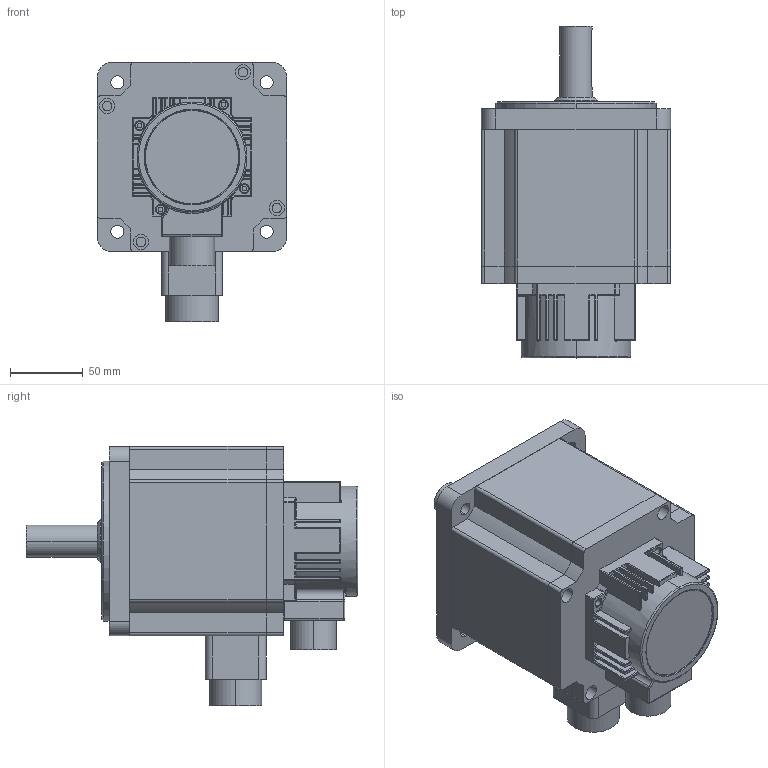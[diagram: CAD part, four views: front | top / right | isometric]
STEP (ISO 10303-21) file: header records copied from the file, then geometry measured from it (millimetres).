
FILE_DESCRIPTION (( 'STEP AP214' ), '1' );
FILE_NAME ('RSN-M13J5025A.STEP', '2022-01-14T07:45:03', ( '' ), ( '' ), 'SwSTEP 2.0', 'SolidWorks 2020', '' );
FILE_SCHEMA (( 'AUTOMOTIVE_DESIGN' ));
Length unit declared in the file: millimetre
Products named in the file (5): S130DG-A-001DY; S130DG-C-001DY; 130SF1300-K2282.5-001; RSN-M13J5025A; S130DG-B-001DY
Assembly tree (4 placements, depth 2):
  RSN-M13J5025A
    S130DG-A-001DY
    S130DG-B-001DY
    S130DG-C-001DY
    130SF1300-K2282.5-001
Bounding box: 130 x 228 x 178 mm (x, y, z)
Volume: 1980392.3 mm3; surface area: 289852.4 mm2
Topology: 9 solids, 9 shells, 835 faces, 2005 edges, 1156 vertices
Faces by surface type: cylinder 405, plane 188, torus 126, sphere 58, bspline 32, cone 26
Entity records: 27352 total; most frequent: CARTESIAN_POINT 6326, DIRECTION 4434, ORIENTED_EDGE 3872, EDGE_CURVE 1936, AXIS2_PLACEMENT_3D 1827, VERTEX_POINT 1156, CIRCLE 1017, EDGE_LOOP 926
